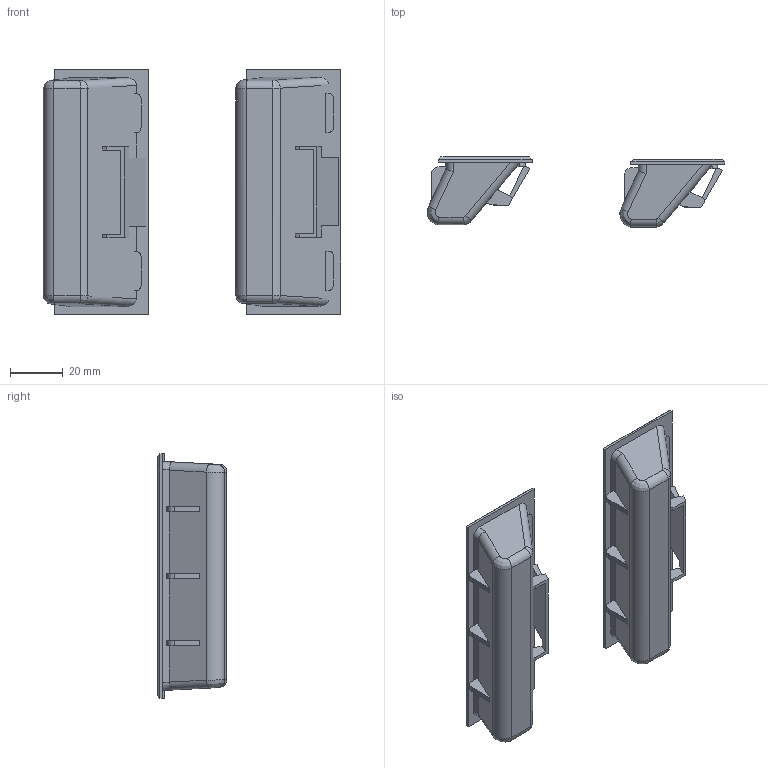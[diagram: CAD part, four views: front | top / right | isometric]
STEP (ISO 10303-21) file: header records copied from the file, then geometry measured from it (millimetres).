
FILE_DESCRIPTION(/* description */ (''),/* implementation_level */ '2;1');
FILE_NAME(/* name */ '\\NAS\db20\A-MP21\A-MP21_M.stp',/* time_stamp */ '2017-07-18T10:04:27+09:00',/* author */ ('user'),/* organization */ (''),/* preprocessor_version */ 'ST-DEVELOPER v15.6',/* originating_system */ 'Autodesk Inventor 2015',/* authorisation */ '');
FILE_SCHEMA (('AUTOMOTIVE_DESIGN { 1 0 10303 214 3 1 1 }'));
Length unit declared in the file: millimetre
Products named in the file (3): DR_A-MP21-12; DR_A-MP21-16; A-MP21_M
Bounding box: 113.1 x 26.5 x 93.12 mm (x, y, z)
Volume: 32509.1 mm3; surface area: 34317.8 mm2
Topology: 2 solids, 2 shells, 192 faces, 500 edges, 312 vertices
Faces by surface type: plane 116, cylinder 56, bspline 8, torus 8, sphere 4
Entity records: 6737 total; most frequent: CARTESIAN_POINT 1869, ORIENTED_EDGE 992, DIRECTION 966, EDGE_CURVE 496, LINE 360, VECTOR 360, VERTEX_POINT 312, AXIS2_PLACEMENT_3D 303
